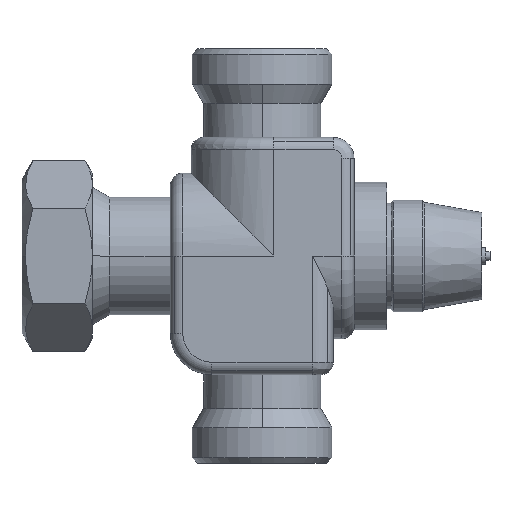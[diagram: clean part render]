
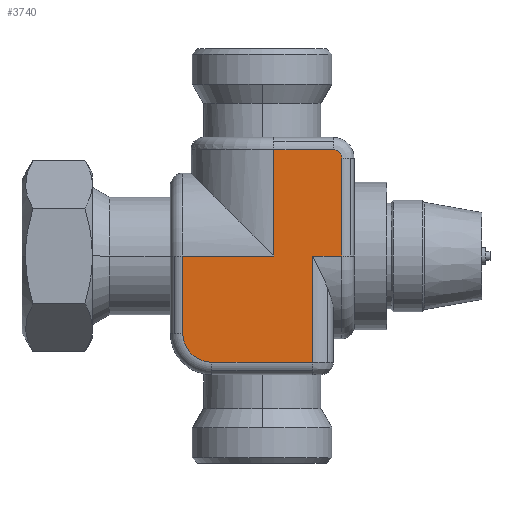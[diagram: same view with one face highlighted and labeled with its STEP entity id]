
A CAD part, left-side view. The second image highlights one B-rep face of the part: STEP entity #3740.
In plain terms, the highlighted planar face has unit normal (-1, 0, 0).
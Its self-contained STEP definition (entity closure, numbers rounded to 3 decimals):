
#2281=CARTESIAN_POINT('',(-20.0,-12.174,50.0));
#2282=VERTEX_POINT('',#2281);
#2294=CARTESIAN_POINT('',(-20.0,-12.174,24.355));
#2295=VERTEX_POINT('',#2294);
#2296=CARTESIAN_POINT('',(-20.0,-12.174,50.0));
#2297=DIRECTION('',(0.0,0.0,-1.0));
#2298=VECTOR('',#2297,25.645);
#2299=LINE('',#2296,#2298);
#2300=EDGE_CURVE('',#2282,#2295,#2299,.T.);
#2993=CARTESIAN_POINT('',(-20.0,12.174,24.355));
#2994=VERTEX_POINT('',#2993);
#2995=CARTESIAN_POINT('',(-20.0,-12.174,24.355));
#2996=DIRECTION('',(0.0,1.0,0.0));
#2997=VECTOR('',#2996,24.347);
#2998=LINE('',#2995,#2997);
#2999=EDGE_CURVE('',#2295,#2994,#2998,.T.);
#3016=CARTESIAN_POINT('',(-20.0,19.174,31.355));
#3017=VERTEX_POINT('',#3016);
#3030=CARTESIAN_POINT('',(-20.0,12.174,31.355));
#3031=DIRECTION('',(1.,0.,0.));
#3032=DIRECTION('',(0.,0.707,-0.707));
#3033=AXIS2_PLACEMENT_3D('',#3030,#3031,#3032);
#3034=CIRCLE('',#3033,7.);
#3035=EDGE_CURVE('',#2994,#3017,#3034,.T.);
#3116=CARTESIAN_POINT('',(-20.0,19.174,50.0));
#3117=VERTEX_POINT('',#3116);
#3118=CARTESIAN_POINT('',(-20.0,19.174,31.355));
#3119=DIRECTION('',(0.0,0.0,1.0));
#3120=VECTOR('',#3119,18.645);
#3121=LINE('',#3118,#3120);
#3122=EDGE_CURVE('',#3017,#3117,#3121,.T.);
#3335=CARTESIAN_POINT('',(-20.0,-2.826,50.0));
#3336=VERTEX_POINT('',#3335);
#3337=CARTESIAN_POINT('',(-20.0,19.174,50.0));
#3338=DIRECTION('',(0.0,-1.0,0.0));
#3339=VECTOR('',#3338,22.0);
#3340=LINE('',#3337,#3339);
#3341=EDGE_CURVE('',#3117,#3336,#3340,.T.);
#3403=CARTESIAN_POINT('',(-20.0,-2.826,75.645));
#3404=VERTEX_POINT('',#3403);
#3405=CARTESIAN_POINT('',(-20.0,-2.826,50.0));
#3406=DIRECTION('',(0.0,0.0,1.0));
#3407=VECTOR('',#3406,25.645);
#3408=LINE('',#3405,#3407);
#3409=EDGE_CURVE('',#3336,#3404,#3408,.T.);
#3567=CARTESIAN_POINT('',(-20.0,-17.174,75.645));
#3568=VERTEX_POINT('',#3567);
#3569=CARTESIAN_POINT('',(-20.0,-2.826,75.645));
#3570=DIRECTION('',(0.0,-1.0,0.0));
#3571=VECTOR('',#3570,14.347);
#3572=LINE('',#3569,#3571);
#3573=EDGE_CURVE('',#3404,#3568,#3572,.T.);
#3599=CARTESIAN_POINT('',(-20.0,-19.174,50.0));
#3600=VERTEX_POINT('',#3599);
#3671=CARTESIAN_POINT('',(-20.0,-19.174,73.645));
#3672=VERTEX_POINT('',#3671);
#3691=CARTESIAN_POINT('',(-20.0,-17.174,73.645));
#3692=DIRECTION('',(1.0,0.,0.));
#3693=DIRECTION('',(0.,-0.707,0.707));
#3694=AXIS2_PLACEMENT_3D('',#3691,#3692,#3693);
#3695=CIRCLE('',#3694,2.);
#3696=EDGE_CURVE('',#3568,#3672,#3695,.T.);
#3708=CARTESIAN_POINT('',(-20.0,-19.174,73.645));
#3709=DIRECTION('',(0.0,0.0,-1.0));
#3710=VECTOR('',#3709,23.645);
#3711=LINE('',#3708,#3710);
#3712=EDGE_CURVE('',#3672,#3600,#3711,.T.);
#3718=CARTESIAN_POINT('',(-20.0,0.,54.322));
#3719=DIRECTION('',(1.0,0.0,0.0));
#3720=DIRECTION('',(0.0,0.0,-1.0));
#3721=AXIS2_PLACEMENT_3D('',#3718,#3719,#3720);
#3722=PLANE('',#3721);
#3723=ORIENTED_EDGE('',*,*,#3712,.F.);
#3724=ORIENTED_EDGE('',*,*,#3696,.F.);
#3725=ORIENTED_EDGE('',*,*,#3573,.F.);
#3726=ORIENTED_EDGE('',*,*,#3409,.F.);
#3727=ORIENTED_EDGE('',*,*,#3341,.F.);
#3728=ORIENTED_EDGE('',*,*,#3122,.F.);
#3729=ORIENTED_EDGE('',*,*,#3035,.F.);
#3730=ORIENTED_EDGE('',*,*,#2999,.F.);
#3731=ORIENTED_EDGE('',*,*,#2300,.F.);
#3732=CARTESIAN_POINT('',(-20.0,-19.174,50.0));
#3733=DIRECTION('',(0.0,1.0,0.0));
#3734=VECTOR('',#3733,7.);
#3735=LINE('',#3732,#3734);
#3736=EDGE_CURVE('',#3600,#2282,#3735,.T.);
#3737=ORIENTED_EDGE('',*,*,#3736,.F.);
#3738=EDGE_LOOP('',(#3723,#3724,#3725,#3726,#3727,#3728,#3729,#3730,#3731,#3737));
#3739=FACE_OUTER_BOUND('',#3738,.T.);
#3740=ADVANCED_FACE('',(#3739),#3722,.F.);
